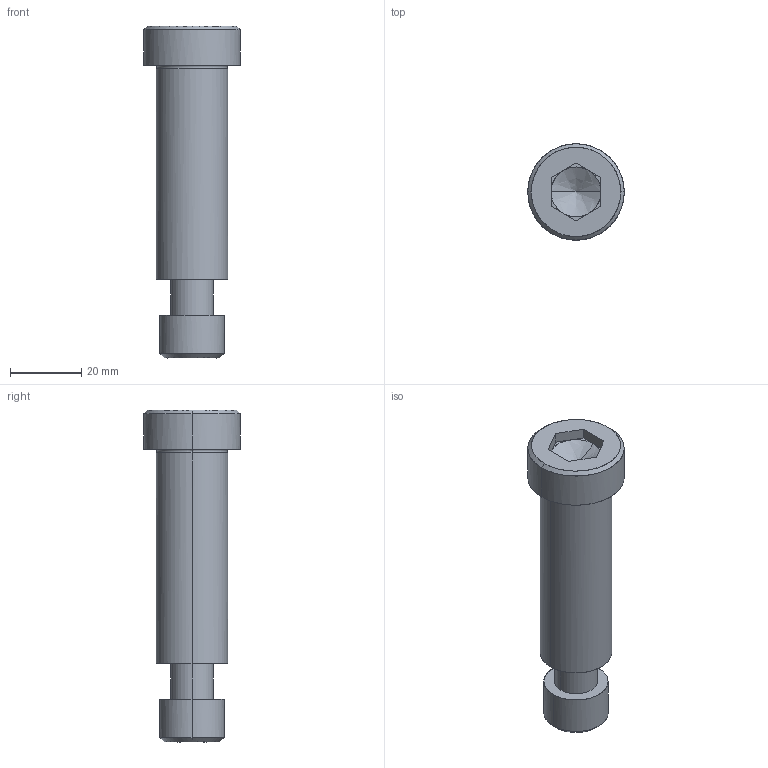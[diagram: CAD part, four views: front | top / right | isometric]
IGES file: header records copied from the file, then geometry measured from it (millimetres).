
Global section: file name: E:\UnigraphicsGraphicData\MISUMI_PRESS-PARTS\IGES\3d_sbtc20-60_05107_r00.igs; native system: NX V5.0; preprocessor: UGS NX IGES V5.0; author: MISUMI; date: 20110105.162450; units: millimetre
Bounding box: 27 x 27 x 93 mm (x, y, z)
Surface area: 9256.6 mm2 (no closed solid volume)
Topology: 0 solids, 0 shells, 52 faces, 294 edges, 290 vertices
Faces by surface type: bspline 52
